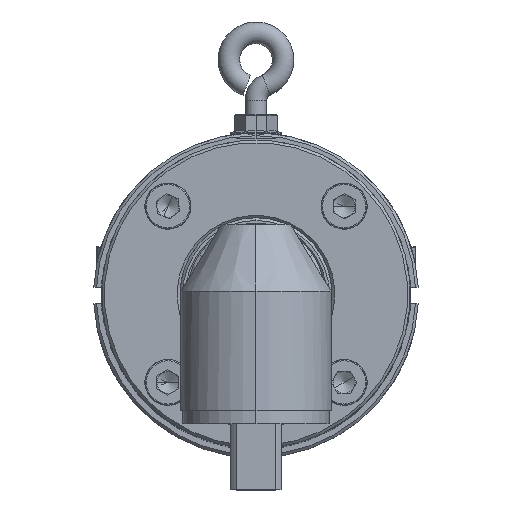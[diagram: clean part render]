
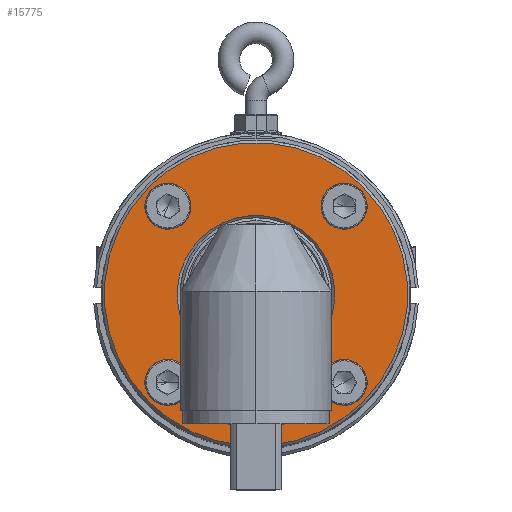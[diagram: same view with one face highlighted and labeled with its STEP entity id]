
A CAD part, top view. The second image highlights one B-rep face of the part: STEP entity #15775.
In plain terms, the highlighted planar face has unit normal (0, 0, 1).
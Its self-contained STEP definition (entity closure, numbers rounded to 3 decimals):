
#65 = EDGE_CURVE ( 'NONE', #29397, #40311, #56551, .T. ) ;
#515 = VERTEX_POINT ( 'NONE', #32218 ) ;
#674 = ORIENTED_EDGE ( 'NONE', *, *, #32880, .T. ) ;
#846 = VERTEX_POINT ( 'NONE', #22393 ) ;
#1988 = DIRECTION ( 'NONE',  ( 0., 0., 1. ) ) ;
#2371 = VERTEX_POINT ( 'NONE', #29056 ) ;
#2625 = DIRECTION ( 'NONE',  ( 0.707, 0.707, 0. ) ) ;
#3215 = ORIENTED_EDGE ( 'NONE', *, *, #44405, .F. ) ;
#3329 = DIRECTION ( 'NONE',  ( -0.707, -0.707, 0. ) ) ;
#3715 = VERTEX_POINT ( 'NONE', #16639 ) ;
#4207 = DIRECTION ( 'NONE',  ( 0.707, -0.707, 0. ) ) ;
#4296 = FACE_BOUND ( 'NONE', #66065, .T. ) ;
#4981 = DIRECTION ( 'NONE',  ( -0.707, -0.707, 0. ) ) ;
#5240 = CIRCLE ( 'NONE', #18664, 4.25 ) ;
#5687 = DIRECTION ( 'NONE',  ( 0., 0., 1. ) ) ;
#5711 = DIRECTION ( 'NONE',  ( 0., 0., 1. ) ) ;
#6429 = EDGE_LOOP ( 'NONE', ( #38794, #674 ) ) ;
#7203 = VERTEX_POINT ( 'NONE', #60922 ) ;
#7744 = FACE_BOUND ( 'NONE', #49705, .T. ) ;
#8300 = CARTESIAN_POINT ( 'NONE',  ( 19.269, -217.312, -10.023 ) ) ;
#8390 = CARTESIAN_POINT ( 'NONE',  ( 13.258, -184.785, -10.023 ) ) ;
#8407 = AXIS2_PLACEMENT_3D ( 'NONE', #12533, #5711, #65975 ) ;
#9420 = DIRECTION ( 'NONE',  ( 0., 0., 1. ) ) ;
#10130 = DIRECTION ( 'NONE',  ( 0., 0., 1. ) ) ;
#11021 = DIRECTION ( 'NONE',  ( 0., 0., 1. ) ) ;
#11168 = FACE_BOUND ( 'NONE', #55138, .T. ) ;
#11790 = DIRECTION ( 'NONE',  ( 0., 0., -1. ) ) ;
#12505 = CARTESIAN_POINT ( 'NONE',  ( 16.263, -220.317, -10.023 ) ) ;
#12533 = CARTESIAN_POINT ( 'NONE',  ( -16.263, -187.79, -10.023 ) ) ;
#13592 = CIRCLE ( 'NONE', #18426, 4.25 ) ;
#14651 = AXIS2_PLACEMENT_3D ( 'NONE', #56999, #50172, #43310 ) ;
#15104 = CIRCLE ( 'NONE', #16717, 4.25 ) ;
#15298 = DIRECTION ( 'NONE',  ( 0.707, -0.707, 0. ) ) ;
#15644 = CARTESIAN_POINT ( 'NONE',  ( 0., -204.054, -10.023 ) ) ;
#15775 = ADVANCED_FACE ( 'NONE', ( #45432, #11168, #4296, #7744, #18120, #21614 ), #63910, .T. ) ;
#15798 = ORIENTED_EDGE ( 'NONE', *, *, #65, .T. ) ;
#16297 = CARTESIAN_POINT ( 'NONE',  ( -16.263, -187.79, -10.023 ) ) ;
#16410 = EDGE_LOOP ( 'NONE', ( #26873, #44006 ) ) ;
#16639 = CARTESIAN_POINT ( 'NONE',  ( 19.269, -190.795, -10.023 ) ) ;
#16717 = AXIS2_PLACEMENT_3D ( 'NONE', #16297, #9420, #2625 ) ;
#16992 = CARTESIAN_POINT ( 'NONE',  ( 0., -204.054, -10.023 ) ) ;
#17675 = CARTESIAN_POINT ( 'NONE',  ( 10.288, -193.765, -10.023 ) ) ;
#18120 = FACE_BOUND ( 'NONE', #6429, .T. ) ;
#18426 = AXIS2_PLACEMENT_3D ( 'NONE', #29143, #22212, #15298 ) ;
#18664 = AXIS2_PLACEMENT_3D ( 'NONE', #57182, #50369, #43515 ) ;
#18691 = CARTESIAN_POINT ( 'NONE',  ( 0., -204.054, -10.023 ) ) ;
#21614 = FACE_OUTER_BOUND ( 'NONE', #51005, .T. ) ;
#21993 = CIRCLE ( 'NONE', #58290, 14.55 ) ;
#22212 = DIRECTION ( 'NONE',  ( 0., 0., 1. ) ) ;
#22393 = CARTESIAN_POINT ( 'NONE',  ( 13.258, -223.322, -10.023 ) ) ;
#24834 = CARTESIAN_POINT ( 'NONE',  ( 16.263, -187.79, -10.023 ) ) ;
#25810 = EDGE_CURVE ( 'NONE', #40311, #29397, #49030, .T. ) ;
#26634 = ORIENTED_EDGE ( 'NONE', *, *, #44727, .F. ) ;
#26873 = ORIENTED_EDGE ( 'NONE', *, *, #42065, .F. ) ;
#28759 = VERTEX_POINT ( 'NONE', #39298 ) ;
#29056 = CARTESIAN_POINT ( 'NONE',  ( -19.269, -217.312, -10.023 ) ) ;
#29143 = CARTESIAN_POINT ( 'NONE',  ( 16.263, -187.79, -10.023 ) ) ;
#29397 = VERTEX_POINT ( 'NONE', #57871 ) ;
#30083 = AXIS2_PLACEMENT_3D ( 'NONE', #60256, #53371, #46551 ) ;
#30149 = DIRECTION ( 'NONE',  ( -0.707, 0.707, 0. ) ) ;
#30917 = EDGE_CURVE ( 'NONE', #7203, #2371, #5240, .T. ) ;
#31828 = EDGE_CURVE ( 'NONE', #846, #37183, #57376, .T. ) ;
#32218 = CARTESIAN_POINT ( 'NONE',  ( -13.258, -184.785, -10.023 ) ) ;
#32796 = VERTEX_POINT ( 'NONE', #49167 ) ;
#32880 = EDGE_CURVE ( 'NONE', #52508, #28759, #21993, .T. ) ;
#32900 = ORIENTED_EDGE ( 'NONE', *, *, #31828, .F. ) ;
#35544 = DIRECTION ( 'NONE',  ( -0.707, -0.707, 0. ) ) ;
#36518 = EDGE_CURVE ( 'NONE', #28759, #52508, #59911, .T. ) ;
#36968 = DIRECTION ( 'NONE',  ( 0., 0., 1. ) ) ;
#37183 = VERTEX_POINT ( 'NONE', #8300 ) ;
#38644 = EDGE_CURVE ( 'NONE', #32796, #515, #66192, .T. ) ;
#38764 = ORIENTED_EDGE ( 'NONE', *, *, #25810, .T. ) ;
#38794 = ORIENTED_EDGE ( 'NONE', *, *, #36518, .T. ) ;
#39298 = CARTESIAN_POINT ( 'NONE',  ( -10.288, -214.342, -10.023 ) ) ;
#40311 = VERTEX_POINT ( 'NONE', #46004 ) ;
#42065 = EDGE_CURVE ( 'NONE', #3715, #62694, #13592, .T. ) ;
#42172 = ORIENTED_EDGE ( 'NONE', *, *, #30917, .F. ) ;
#42436 = DIRECTION ( 'NONE',  ( 0., 0., -1. ) ) ;
#43310 = DIRECTION ( 'NONE',  ( -0.707, -0.707, 0. ) ) ;
#43515 = DIRECTION ( 'NONE',  ( -0.707, 0.707, 0. ) ) ;
#44006 = ORIENTED_EDGE ( 'NONE', *, *, #51510, .F. ) ;
#44405 = EDGE_CURVE ( 'NONE', #2371, #7203, #51064, .T. ) ;
#44727 = EDGE_CURVE ( 'NONE', #515, #32796, #15104, .T. ) ;
#45073 = AXIS2_PLACEMENT_3D ( 'NONE', #16992, #10130, #3329 ) ;
#45432 = FACE_BOUND ( 'NONE', #16410, .T. ) ;
#46004 = CARTESIAN_POINT ( 'NONE',  ( 19.799, -184.255, -10.023 ) ) ;
#46551 = DIRECTION ( 'NONE',  ( -0.707, -0.707, 0. ) ) ;
#49030 = CIRCLE ( 'NONE', #45073, 28. ) ;
#49167 = CARTESIAN_POINT ( 'NONE',  ( -19.269, -190.795, -10.023 ) ) ;
#49364 = CIRCLE ( 'NONE', #30083, 4.25 ) ;
#49705 = EDGE_LOOP ( 'NONE', ( #32900, #65309 ) ) ;
#50172 = DIRECTION ( 'NONE',  ( 0., 0., 1. ) ) ;
#50369 = DIRECTION ( 'NONE',  ( 0., 0., 1. ) ) ;
#50472 = EDGE_CURVE ( 'NONE', #37183, #846, #49364, .T. ) ;
#51005 = EDGE_LOOP ( 'NONE', ( #38764, #15798 ) ) ;
#51064 = CIRCLE ( 'NONE', #57414, 4.25 ) ;
#51510 = EDGE_CURVE ( 'NONE', #62694, #3715, #54709, .T. ) ;
#52508 = VERTEX_POINT ( 'NONE', #17675 ) ;
#53371 = DIRECTION ( 'NONE',  ( 0., 0., 1. ) ) ;
#54709 = CIRCLE ( 'NONE', #59446, 4.25 ) ;
#55138 = EDGE_LOOP ( 'NONE', ( #26634, #66584 ) ) ;
#56148 = CARTESIAN_POINT ( 'NONE',  ( 0., -204.054, -10.023 ) ) ;
#56551 = CIRCLE ( 'NONE', #59981, 28. ) ;
#56999 = CARTESIAN_POINT ( 'NONE',  ( 0., -204.054, -10.023 ) ) ;
#57182 = CARTESIAN_POINT ( 'NONE',  ( -16.263, -220.317, -10.023 ) ) ;
#57376 = CIRCLE ( 'NONE', #62050, 4.25 ) ;
#57414 = AXIS2_PLACEMENT_3D ( 'NONE', #64474, #36968, #30149 ) ;
#57871 = CARTESIAN_POINT ( 'NONE',  ( -19.799, -223.853, -10.023 ) ) ;
#58290 = AXIS2_PLACEMENT_3D ( 'NONE', #18691, #11790, #4981 ) ;
#59446 = AXIS2_PLACEMENT_3D ( 'NONE', #24834, #11021, #4207 ) ;
#59911 = CIRCLE ( 'NONE', #64267, 14.55 ) ;
#59981 = AXIS2_PLACEMENT_3D ( 'NONE', #15644, #1988, #62213 ) ;
#60256 = CARTESIAN_POINT ( 'NONE',  ( 16.263, -220.317, -10.023 ) ) ;
#60922 = CARTESIAN_POINT ( 'NONE',  ( -13.258, -223.322, -10.023 ) ) ;
#62050 = AXIS2_PLACEMENT_3D ( 'NONE', #12505, #5687, #65948 ) ;
#62213 = DIRECTION ( 'NONE',  ( -0.707, -0.707, 0. ) ) ;
#62694 = VERTEX_POINT ( 'NONE', #8390 ) ;
#63910 = PLANE ( 'NONE',  #14651 ) ;
#64267 = AXIS2_PLACEMENT_3D ( 'NONE', #56148, #42436, #35544 ) ;
#64474 = CARTESIAN_POINT ( 'NONE',  ( -16.263, -220.317, -10.023 ) ) ;
#65309 = ORIENTED_EDGE ( 'NONE', *, *, #50472, .F. ) ;
#65948 = DIRECTION ( 'NONE',  ( -0.707, -0.707, 0. ) ) ;
#65975 = DIRECTION ( 'NONE',  ( 0.707, 0.707, 0. ) ) ;
#66065 = EDGE_LOOP ( 'NONE', ( #3215, #42172 ) ) ;
#66192 = CIRCLE ( 'NONE', #8407, 4.25 ) ;
#66584 = ORIENTED_EDGE ( 'NONE', *, *, #38644, .F. ) ;
